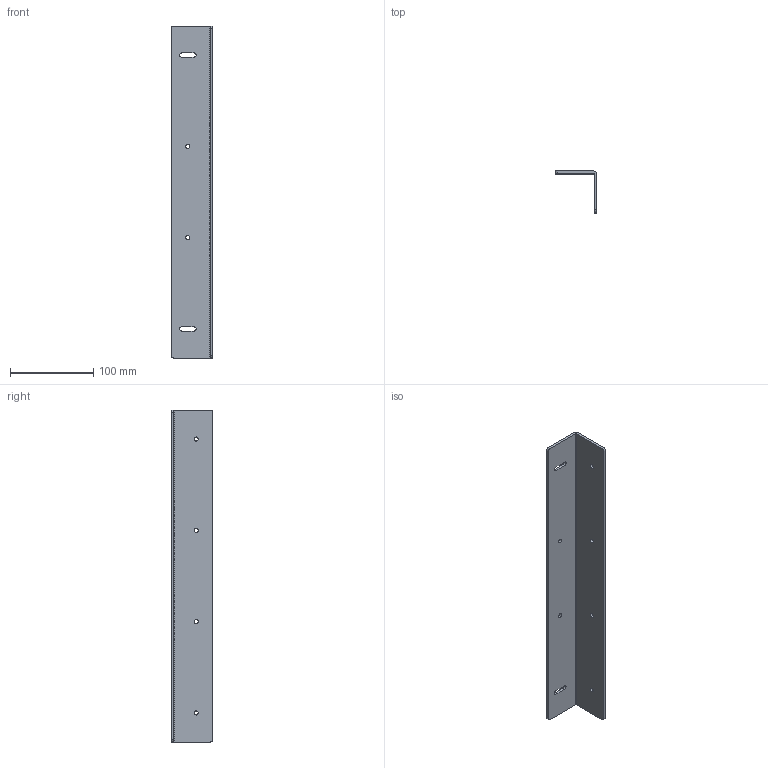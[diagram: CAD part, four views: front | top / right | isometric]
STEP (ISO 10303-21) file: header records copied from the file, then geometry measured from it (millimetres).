
FILE_DESCRIPTION (( 'STEP AP214' ), '1' );
FILE_NAME ('E445-400.STEP', '2025-06-10T02:35:08', ( '' ), ( '' ), 'SwSTEP 2.0', 'SolidWorks 2024', '' );
FILE_SCHEMA (( 'AUTOMOTIVE_DESIGN' ));
Length unit declared in the file: millimetre
Products named in the file (1): E445-400
Bounding box: 50 x 50 x 400 mm (x, y, z)
Volume: 114425.5 mm3; surface area: 79802.1 mm2
Topology: 1 solids, 1 shells, 34 faces, 96 edges, 64 vertices
Faces by surface type: cylinder 22, plane 12
Entity records: 1179 total; most frequent: DIRECTION 210, CARTESIAN_POINT 195, ORIENTED_EDGE 192, EDGE_CURVE 96, AXIS2_PLACEMENT_3D 79, VERTEX_POINT 64, VECTOR 52, LINE 52
